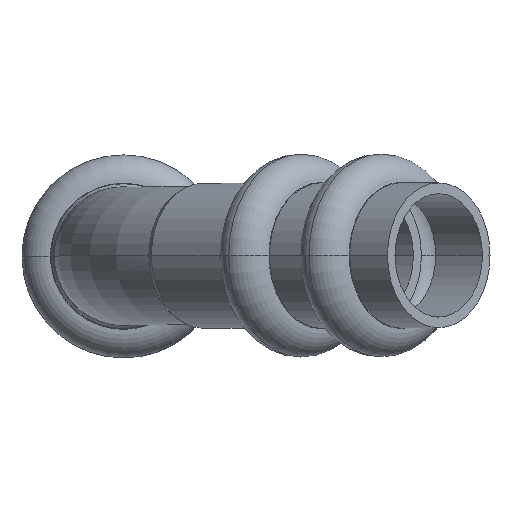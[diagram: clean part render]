
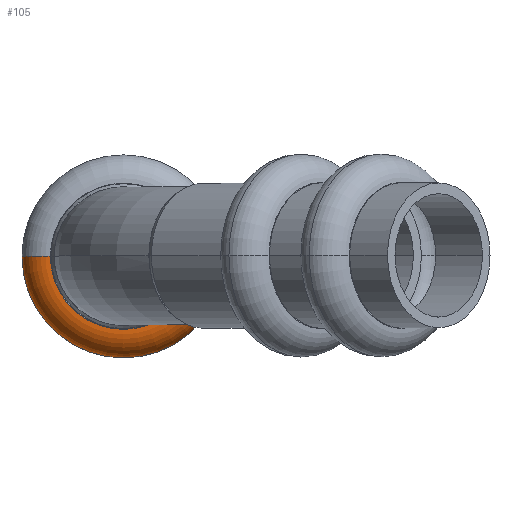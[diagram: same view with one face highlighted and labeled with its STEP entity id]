
A CAD part, top view. The second image highlights one B-rep face of the part: STEP entity #105.
In plain terms, the highlighted toroidal (fillet/blend) face has major radius 5.8 mm and minor radius 2.25 mm.
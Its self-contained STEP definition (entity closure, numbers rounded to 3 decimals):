
#105=ADVANCED_FACE('',(#274),#275,.T.);
#274=FACE_OUTER_BOUND('',#522,.T.);
#275=TOROIDAL_SURFACE('',#523,5.8,2.25);
#522=EDGE_LOOP('',(#779,#780,#781,#782));
#523=AXIS2_PLACEMENT_3D('',#783,#784,#785);
#779=ORIENTED_EDGE('',*,*,#1363,.F.);
#780=ORIENTED_EDGE('',*,*,#1364,.T.);
#781=ORIENTED_EDGE('',*,*,#1365,.T.);
#782=ORIENTED_EDGE('',*,*,#1366,.T.);
#783=CARTESIAN_POINT('',(0.,0.0,15.5));
#784=DIRECTION('',(0.,0.0,-1.0));
#785=DIRECTION('',(-1.0,0.0,0.));
#1363=EDGE_CURVE('',#1598,#1599,#1600,.T.);
#1364=EDGE_CURVE('',#1598,#1601,#1602,.T.);
#1365=EDGE_CURVE('',#1601,#1603,#1604,.T.);
#1366=EDGE_CURVE('',#1603,#1599,#1605,.T.);
#1598=VERTEX_POINT('',#2039);
#1599=VERTEX_POINT('',#2040);
#1600=CIRCLE('',#2041,8.05);
#1601=VERTEX_POINT('',#2042);
#1602=CIRCLE('',#2043,2.25);
#1603=VERTEX_POINT('',#2044);
#1604=CIRCLE('',#2045,5.8);
#1605=CIRCLE('',#2046,2.25);
#2039=CARTESIAN_POINT('',(8.05,0.,15.5));
#2040=CARTESIAN_POINT('',(-8.05,0.,15.5));
#2041=AXIS2_PLACEMENT_3D('',#2510,#2511,#2512);
#2042=CARTESIAN_POINT('',(5.8,0.,17.75));
#2043=AXIS2_PLACEMENT_3D('',#2513,#2514,#2515);
#2044=CARTESIAN_POINT('',(-5.8,0.,17.75));
#2045=AXIS2_PLACEMENT_3D('',#2516,#2517,#2518);
#2046=AXIS2_PLACEMENT_3D('',#2519,#2520,#2521);
#2510=CARTESIAN_POINT('',(0.,0.0,15.5));
#2511=DIRECTION('',(0.,0.0,-1.0));
#2512=DIRECTION('',(-1.0,0.0,0.));
#2513=CARTESIAN_POINT('',(5.8,0.,15.5));
#2514=DIRECTION('',(0.,-1.0,0.));
#2515=DIRECTION('',(1.0,0.,0.));
#2516=CARTESIAN_POINT('',(0.,0.0,17.75));
#2517=DIRECTION('',(0.,0.0,-1.0));
#2518=DIRECTION('',(1.0,0.0,0.));
#2519=CARTESIAN_POINT('',(-5.8,0.,15.5));
#2520=DIRECTION('',(0.,-1.0,0.));
#2521=DIRECTION('',(-1.0,0.,0.));
